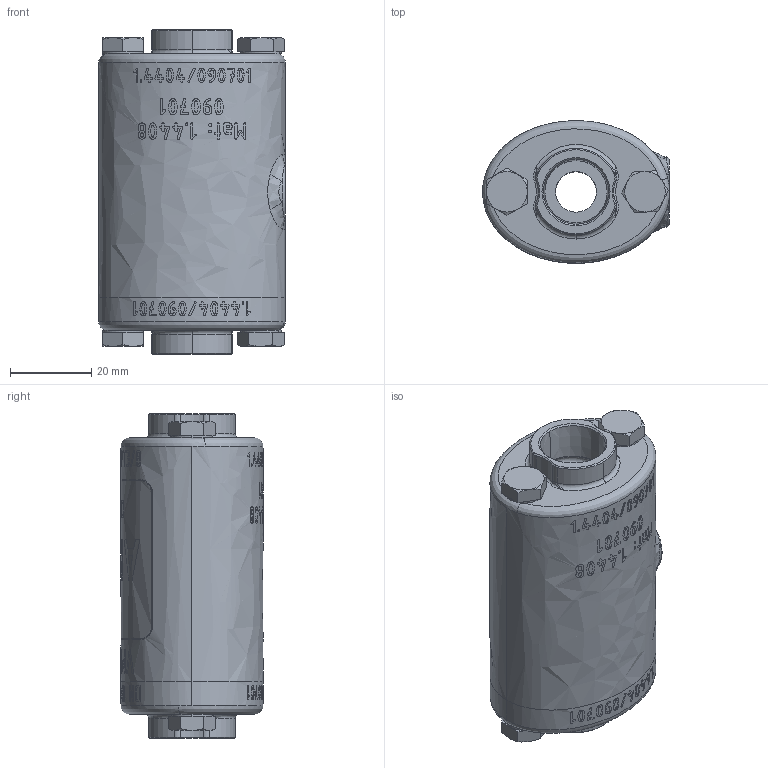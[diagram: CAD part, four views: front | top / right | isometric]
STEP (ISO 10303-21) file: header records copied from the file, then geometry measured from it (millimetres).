
FILE_DESCRIPTION (( 'STEP AP214' ), '1' );
FILE_NAME ('VMC10xx50N50_E.STEP', '2015-07-10T11:12:38', ( '' ), ( '' ), 'SwSTEP 2.0', 'SolidWorks 2015', '' );
FILE_SCHEMA (( 'AUTOMOTIVE_DESIGN' ));
Length unit declared in the file: millimetre
Products named in the file (1): VMC10xx50N50_E
Bounding box: 46 x 35 x 80 mm (x, y, z)
Volume: 81620.4 mm3; surface area: 15522.6 mm2
Topology: 1 solids, 1 shells, 1025 faces, 3023 edges, 2098 vertices
Faces by surface type: bspline 682, plane 229, cone 60, cylinder 38, torus 16
Entity records: 112342 total; most frequent: CARTESIAN_POINT 80721, ORIENTED_EDGE 6014, EDGE_CURVE 3007, B_SPLINE_CURVE_WITH_KNOTS 2479, VERTEX_POINT 2098, DIRECTION 1301, EDGE_LOOP 1141, UNCERTAINTY_MEASURE_WITH_UNIT 1028
